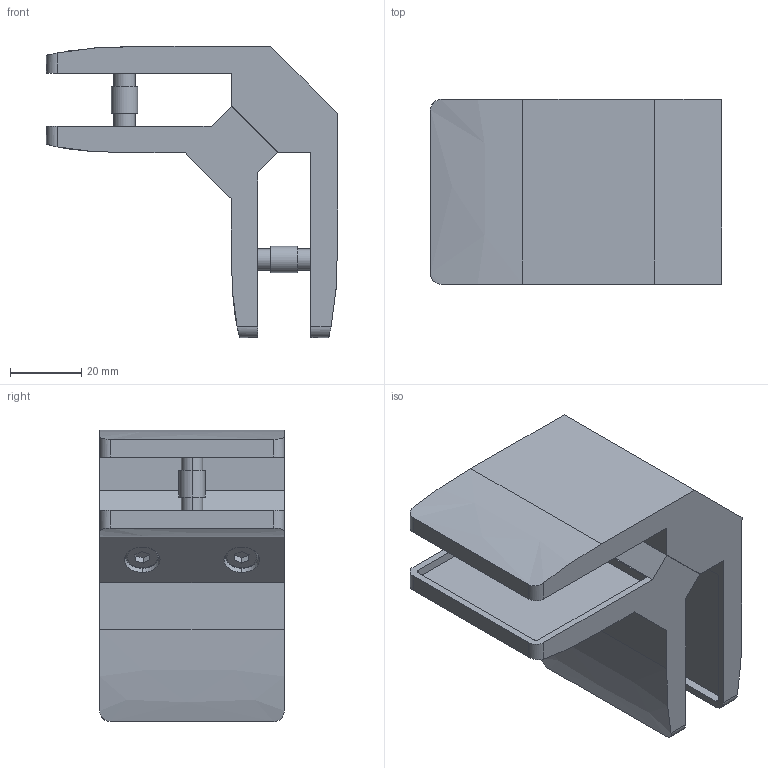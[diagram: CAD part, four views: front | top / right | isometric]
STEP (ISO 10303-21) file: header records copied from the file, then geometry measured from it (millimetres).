
FILE_DESCRIPTION (( 'STEP AP203' ), '1' );
FILE_NAME ('3D_GG4374 G_188758911.STEP', '2024-11-05T10:28:38', ( '' ), ( '' ), 'SwSTEP 2.0', 'SolidWorks 2023', '' );
FILE_SCHEMA (( 'CONFIG_CONTROL_DESIGN' ));
Length unit declared in the file: millimetre
Products named in the file (1): 3D_GG4374 G_188758911
Bounding box: 81.97 x 52 x 81.97 mm (x, y, z)
Volume: 100289.9 mm3; surface area: 38419.5 mm2
Topology: 8 solids, 8 shells, 154 faces, 352 edges, 232 vertices
Faces by surface type: plane 82, cylinder 60, torus 4, bspline 4, cone 4
Entity records: 4531 total; most frequent: CARTESIAN_POINT 919, DIRECTION 746, ORIENTED_EDGE 704, EDGE_CURVE 352, AXIS2_PLACEMENT_3D 267, VERTEX_POINT 232, LINE 212, VECTOR 212
